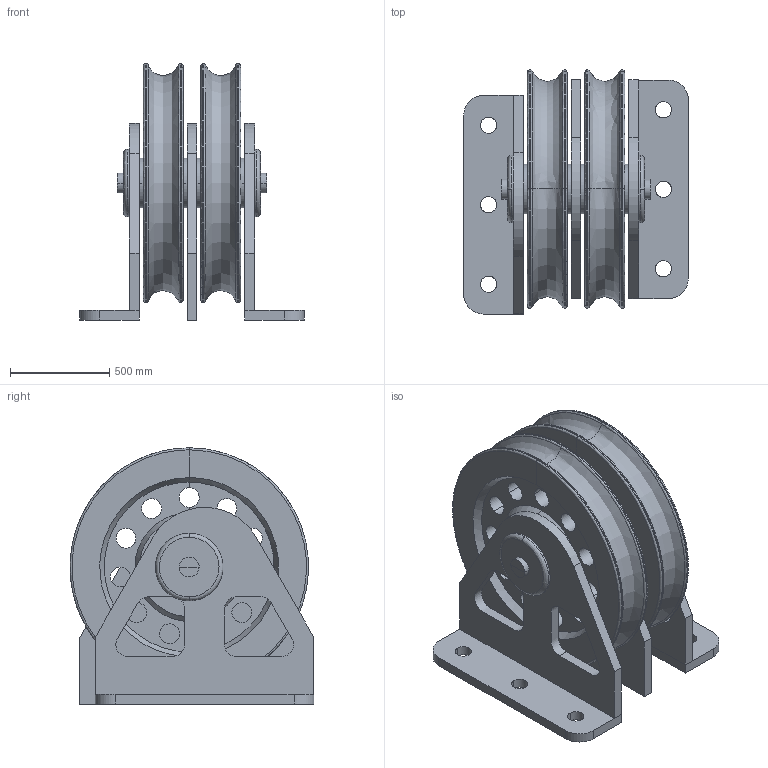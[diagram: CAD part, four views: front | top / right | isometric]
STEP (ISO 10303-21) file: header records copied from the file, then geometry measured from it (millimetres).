
FILE_DESCRIPTION(/* description */ (''),/* implementation_level */ '2;1');
FILE_NAME(/* name */ 'POULIE DOUBLE FIXE D 120',/* time_stamp */ '2005-05-31T08:53:13+02:00',/* author */ (''),/* organization */ (''),/* preprocessor_version */ 'ST-DEVELOPER v8',/* originating_system */ '',/* authorisation */ '');
FILE_SCHEMA (('CONFIG_CONTROL_DESIGN'));
Length unit declared in the file: centimetre
Products named in the file (1): 1
Bounding box: 1130 x 1226.87 x 1290 mm (x, y, z)
Volume: 459153844 mm3; surface area: 15850471.9 mm2
Topology: 18 solids, 18 shells, 348 faces, 802 edges, 462 vertices
Faces by surface type: bspline 348
Entity records: 12597 total; most frequent: CARTESIAN_POINT 7995, ORIENTED_EDGE 1580, EDGE_CURVE 790, VERTEX_POINT 490, EDGE_LOOP 426, B_SPLINE_CURVE_WITH_KNOTS 368, ADVANCED_FACE 348, FACE_OUTER_BOUND 348
